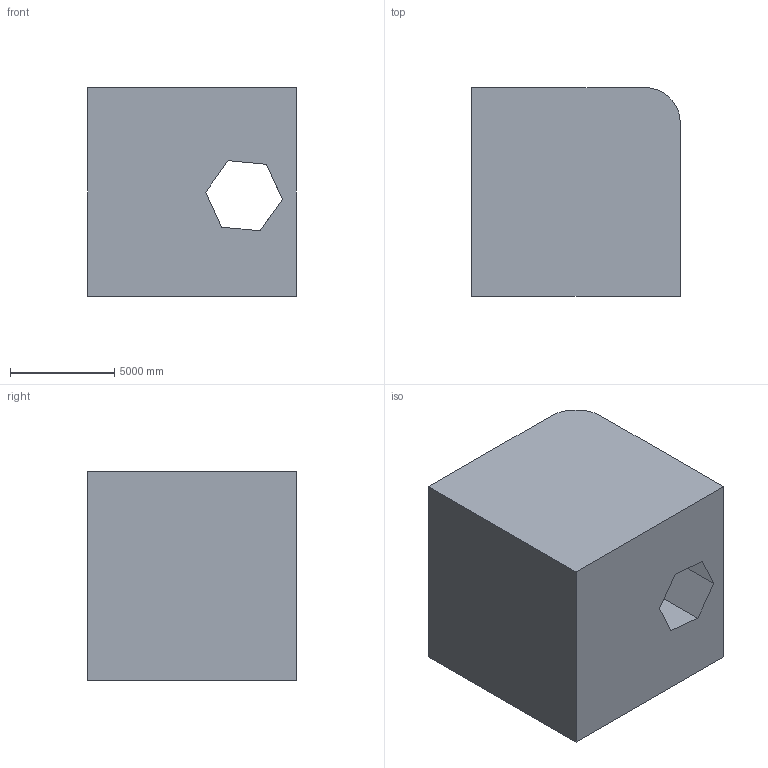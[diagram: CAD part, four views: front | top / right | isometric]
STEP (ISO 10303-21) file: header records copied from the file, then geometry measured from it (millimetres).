
FILE_DESCRIPTION (( 'STEP AP203' ), '1' );
FILE_NAME ('1156.STEP', '2022-08-18T12:58:52', ( 'user' ), ( '' ), 'SwSTEP 2.0', 'SolidWorks 2021', '' );
FILE_SCHEMA (( 'CONFIG_CONTROL_DESIGN' ));
Length unit declared in the file: centimetre
Products named in the file (1): 1156
Bounding box: 10000 x 10000 x 10000 mm (x, y, z)
Volume: 905143950818.3 mm3; surface area: 684211541.2 mm2
Topology: 1 solids, 1 shells, 13 faces, 36 edges, 24 vertices
Faces by surface type: plane 12, cylinder 1
Entity records: 493 total; most frequent: CARTESIAN_POINT 83, ORIENTED_EDGE 72, DIRECTION 63, EDGE_CURVE 36, VECTOR 31, LINE 31, VERTEX_POINT 24, AXIS2_PLACEMENT_3D 16
